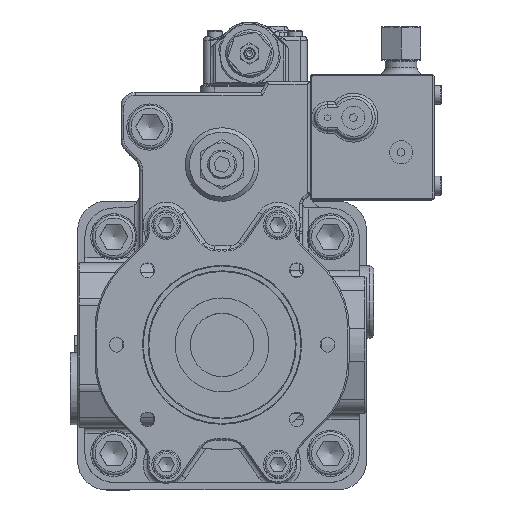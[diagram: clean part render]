
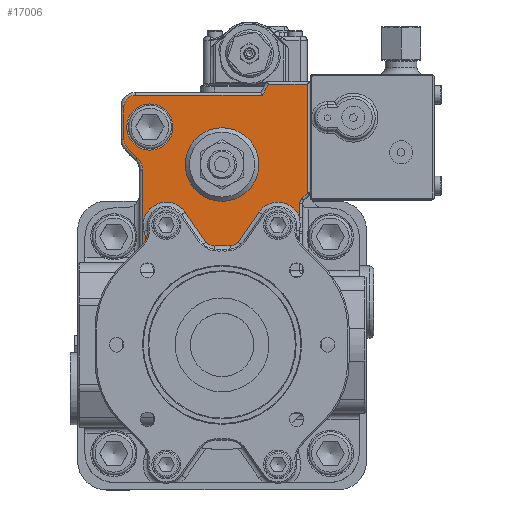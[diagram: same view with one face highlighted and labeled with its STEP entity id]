
A CAD part, top view. The second image highlights one B-rep face of the part: STEP entity #17006.
In plain terms, the highlighted planar face has unit normal (0, 0, 1).
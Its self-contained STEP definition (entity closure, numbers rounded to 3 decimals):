
#13595=CARTESIAN_POINT('',(-49.359,61.,75.));
#13596=VERTEX_POINT('',#13595);
#13605=CARTESIAN_POINT('',(-54.124,78.786,75.));
#13606=VERTEX_POINT('',#13605);
#13614=CARTESIAN_POINT('',(-54.124,78.786,75.));
#13615=DIRECTION('',(0.259,-0.966,0.0));
#13616=VECTOR('',#13615,18.413);
#13617=LINE('',#13614,#13616);
#13618=EDGE_CURVE('',#13606,#13596,#13617,.T.);
#13630=CARTESIAN_POINT('',(-25.563,92.104,75.));
#13631=VERTEX_POINT('',#13630);
#13639=CARTESIAN_POINT('',(-38.67,82.927,75.));
#13640=DIRECTION('',(0.,0.,1.0));
#13641=DIRECTION('',(-0.423,0.906,0.));
#13642=AXIS2_PLACEMENT_3D('',#13639,#13640,#13641);
#13643=CIRCLE('',#13642,16.);
#13644=EDGE_CURVE('',#13631,#13606,#13643,.T.);
#13656=CARTESIAN_POINT('',(-11.003,71.311,75.));
#13657=VERTEX_POINT('',#13656);
#13665=CARTESIAN_POINT('',(-11.003,71.311,75.0));
#13666=DIRECTION('',(-0.574,0.819,0.));
#13667=VECTOR('',#13666,25.384);
#13668=LINE('',#13665,#13667);
#13669=EDGE_CURVE('',#13657,#13631,#13668,.T.);
#13681=CARTESIAN_POINT('',(-5.601,68.772,75.0));
#13682=VERTEX_POINT('',#13681);
#13690=CARTESIAN_POINT('',(-6.089,74.752,75.0));
#13691=DIRECTION('',(0.,0.,-1.0));
#13692=DIRECTION('',(-0.425,-0.905,0.));
#13693=AXIS2_PLACEMENT_3D('',#13690,#13691,#13692);
#13694=CIRCLE('',#13693,6.);
#13695=EDGE_CURVE('',#13682,#13657,#13694,.T.);
#13707=CARTESIAN_POINT('',(5.601,68.772,75.0));
#13708=VERTEX_POINT('',#13707);
#13716=CARTESIAN_POINT('',(0.,0.,75.0));
#13717=DIRECTION('',(0.0,0.0,1.0));
#13718=DIRECTION('',(0.0,1.0,0.0));
#13719=AXIS2_PLACEMENT_3D('',#13716,#13717,#13718);
#13720=CIRCLE('',#13719,69.);
#13721=EDGE_CURVE('',#13708,#13682,#13720,.T.);
#13733=CARTESIAN_POINT('',(11.003,71.311,75.));
#13734=VERTEX_POINT('',#13733);
#13742=CARTESIAN_POINT('',(6.089,74.752,75.0));
#13743=DIRECTION('',(0.,0.,-1.0));
#13744=DIRECTION('',(0.425,-0.905,0.));
#13745=AXIS2_PLACEMENT_3D('',#13742,#13743,#13744);
#13746=CIRCLE('',#13745,6.0);
#13747=EDGE_CURVE('',#13734,#13708,#13746,.T.);
#13759=CARTESIAN_POINT('',(25.563,92.104,75.));
#13760=VERTEX_POINT('',#13759);
#13768=CARTESIAN_POINT('',(25.563,92.104,75.));
#13769=DIRECTION('',(-0.574,-0.819,0.));
#13770=VECTOR('',#13769,25.384);
#13771=LINE('',#13768,#13770);
#13772=EDGE_CURVE('',#13760,#13734,#13771,.T.);
#13816=CARTESIAN_POINT('',(53.743,88.294,75.));
#13817=VERTEX_POINT('',#13816);
#13828=CARTESIAN_POINT('',(38.67,82.927,75.));
#13829=DIRECTION('',(0.,0.,1.0));
#13830=DIRECTION('',(0.423,0.906,0.));
#13831=AXIS2_PLACEMENT_3D('',#13828,#13829,#13830);
#13832=CIRCLE('',#13831,16.);
#13833=EDGE_CURVE('',#13817,#13760,#13832,.T.);
#14149=CARTESIAN_POINT('',(-55.,61.,75.));
#14150=VERTEX_POINT('',#14149);
#14165=CARTESIAN_POINT('',(-49.359,61.,75.));
#14166=DIRECTION('',(-1.0,0.0,0.0));
#14167=VECTOR('',#14166,5.641);
#14168=LINE('',#14165,#14167);
#14169=EDGE_CURVE('',#13596,#14150,#14168,.T.);
#15957=CARTESIAN_POINT('',(55.207,101.536,75.));
#15958=VERTEX_POINT('',#15957);
#15966=CARTESIAN_POINT('',(53.743,98.,75.));
#15967=VERTEX_POINT('',#15966);
#15968=CARTESIAN_POINT('',(58.743,98.,75.));
#15969=DIRECTION('',(0.,0.,1.0));
#15970=DIRECTION('',(-0.924,0.383,0.));
#15971=AXIS2_PLACEMENT_3D('',#15968,#15969,#15970);
#15972=CIRCLE('',#15971,5.);
#15973=EDGE_CURVE('',#15958,#15967,#15972,.T.);
#16048=CARTESIAN_POINT('',(53.743,98.,75.));
#16049=DIRECTION('',(0.0,-1.0,0.0));
#16050=VECTOR('',#16049,9.706);
#16051=LINE('',#16048,#16050);
#16052=EDGE_CURVE('',#15967,#13817,#16051,.T.);
#16148=CARTESIAN_POINT('',(-60.,173.0,75.));
#16149=VERTEX_POINT('',#16148);
#16157=CARTESIAN_POINT('',(27.825,173.,75.));
#16158=VERTEX_POINT('',#16157);
#16159=CARTESIAN_POINT('',(-60.,173.,75.));
#16160=DIRECTION('',(1.0,0.0,0.0));
#16161=VECTOR('',#16160,87.825);
#16162=LINE('',#16159,#16161);
#16163=EDGE_CURVE('',#16149,#16158,#16162,.T.);
#16182=CARTESIAN_POINT('',(-68.,165.,75.));
#16183=VERTEX_POINT('',#16182);
#16191=CARTESIAN_POINT('',(-60.,165.0,75.));
#16192=DIRECTION('',(0.,0.,-1.0));
#16193=DIRECTION('',(-0.707,0.707,0.));
#16194=AXIS2_PLACEMENT_3D('',#16191,#16192,#16193);
#16195=CIRCLE('',#16194,8.0);
#16196=EDGE_CURVE('',#16183,#16149,#16195,.T.);
#16208=CARTESIAN_POINT('',(-68.,142.142,75.));
#16209=VERTEX_POINT('',#16208);
#16217=CARTESIAN_POINT('',(-68.,142.142,75.));
#16218=DIRECTION('',(0.0,1.0,0.0));
#16219=VECTOR('',#16218,22.858);
#16220=LINE('',#16217,#16219);
#16221=EDGE_CURVE('',#16209,#16183,#16220,.T.);
#16233=CARTESIAN_POINT('',(-65.657,136.485,75.));
#16234=VERTEX_POINT('',#16233);
#16242=CARTESIAN_POINT('',(-60.,142.142,75.));
#16243=DIRECTION('',(0.,0.,-1.0));
#16244=DIRECTION('',(-0.924,-0.383,0.));
#16245=AXIS2_PLACEMENT_3D('',#16242,#16243,#16244);
#16246=CIRCLE('',#16245,8.0);
#16247=EDGE_CURVE('',#16234,#16209,#16246,.T.);
#16259=CARTESIAN_POINT('',(-58.515,129.343,75.));
#16260=VERTEX_POINT('',#16259);
#16268=CARTESIAN_POINT('',(-58.515,129.343,75.));
#16269=DIRECTION('',(-0.707,0.707,0.));
#16270=VECTOR('',#16269,10.101);
#16271=LINE('',#16268,#16270);
#16272=EDGE_CURVE('',#16260,#16234,#16271,.T.);
#16284=CARTESIAN_POINT('',(-55.,120.858,75.));
#16285=VERTEX_POINT('',#16284);
#16293=CARTESIAN_POINT('',(-67.,120.858,75.));
#16294=DIRECTION('',(0.,0.,1.0));
#16295=DIRECTION('',(0.924,0.383,0.));
#16296=AXIS2_PLACEMENT_3D('',#16293,#16294,#16295);
#16297=CIRCLE('',#16296,12.);
#16298=EDGE_CURVE('',#16285,#16260,#16297,.T.);
#16354=CARTESIAN_POINT('',(-55.,61.,75.));
#16355=DIRECTION('',(0.0,1.0,0.0));
#16356=VECTOR('',#16355,59.858);
#16357=LINE('',#16354,#16356);
#16358=EDGE_CURVE('',#14150,#16285,#16357,.T.);
#16368=CARTESIAN_POINT('',(59.,105.328,75.));
#16369=VERTEX_POINT('',#16368);
#16379=CARTESIAN_POINT('',(59.,105.328,75.));
#16380=DIRECTION('',(-0.707,-0.707,0.0));
#16381=VECTOR('',#16380,5.364);
#16382=LINE('',#16379,#16381);
#16383=EDGE_CURVE('',#16369,#15958,#16382,.T.);
#16473=CARTESIAN_POINT('',(59.,180.5,75.));
#16474=VERTEX_POINT('',#16473);
#16482=CARTESIAN_POINT('',(59.,180.5,75.));
#16483=DIRECTION('',(0.0,-1.0,0.0));
#16484=VECTOR('',#16483,75.172);
#16485=LINE('',#16482,#16484);
#16486=EDGE_CURVE('',#16474,#16369,#16485,.T.);
#16496=CARTESIAN_POINT('',(32.155,180.5,75.));
#16497=VERTEX_POINT('',#16496);
#16498=CARTESIAN_POINT('',(32.155,180.5,75.));
#16499=DIRECTION('',(1.0,0.0,0.0));
#16500=VECTOR('',#16499,26.845);
#16501=LINE('',#16498,#16500);
#16502=EDGE_CURVE('',#16497,#16474,#16501,.T.);
#16522=CARTESIAN_POINT('',(27.825,173.,75.));
#16523=DIRECTION('',(0.5,0.866,0.));
#16524=VECTOR('',#16523,8.66);
#16525=LINE('',#16522,#16524);
#16526=EDGE_CURVE('',#16158,#16497,#16525,.T.);
#16940=CARTESIAN_POINT('',(-34.,151.0,75.));
#16941=VERTEX_POINT('',#16940);
#16942=CARTESIAN_POINT('',(-50.,151.,75.));
#16943=DIRECTION('',(0.0,0.0,-1.0));
#16944=DIRECTION('',(1.0,0.0,0.0));
#16945=AXIS2_PLACEMENT_3D('',#16942,#16943,#16944);
#16946=CIRCLE('',#16945,16.0);
#16947=EDGE_CURVE('',#16941,#16941,#16946,.T.);
#16963=CARTESIAN_POINT('',(-2.165,135.954,75.0));
#16964=DIRECTION('',(0.0,0.0,1.0));
#16965=DIRECTION('',(1.0,0.0,0.0));
#16966=AXIS2_PLACEMENT_3D('',#16963,#16964,#16965);
#16967=PLANE('',#16966);
#16968=ORIENTED_EDGE('',*,*,#16486,.F.);
#16969=ORIENTED_EDGE('',*,*,#16502,.F.);
#16970=ORIENTED_EDGE('',*,*,#16526,.F.);
#16971=ORIENTED_EDGE('',*,*,#16163,.F.);
#16972=ORIENTED_EDGE('',*,*,#16196,.F.);
#16973=ORIENTED_EDGE('',*,*,#16221,.F.);
#16974=ORIENTED_EDGE('',*,*,#16247,.F.);
#16975=ORIENTED_EDGE('',*,*,#16272,.F.);
#16976=ORIENTED_EDGE('',*,*,#16298,.F.);
#16977=ORIENTED_EDGE('',*,*,#16358,.F.);
#16978=ORIENTED_EDGE('',*,*,#14169,.F.);
#16979=ORIENTED_EDGE('',*,*,#13618,.F.);
#16980=ORIENTED_EDGE('',*,*,#13644,.F.);
#16981=ORIENTED_EDGE('',*,*,#13669,.F.);
#16982=ORIENTED_EDGE('',*,*,#13695,.F.);
#16983=ORIENTED_EDGE('',*,*,#13721,.F.);
#16984=ORIENTED_EDGE('',*,*,#13747,.F.);
#16985=ORIENTED_EDGE('',*,*,#13772,.F.);
#16986=ORIENTED_EDGE('',*,*,#13833,.F.);
#16987=ORIENTED_EDGE('',*,*,#16052,.F.);
#16988=ORIENTED_EDGE('',*,*,#15973,.F.);
#16989=ORIENTED_EDGE('',*,*,#16383,.F.);
#16990=EDGE_LOOP('',(#16968,#16969,#16970,#16971,#16972,#16973,#16974,#16975,#16976,#16977,#16978,#16979,#16980,#16981,#16982,#16983,#16984,#16985,#16986,#16987,#16988,#16989));
#16991=FACE_OUTER_BOUND('',#16990,.T.);
#16992=ORIENTED_EDGE('',*,*,#16947,.T.);
#16993=EDGE_LOOP('',(#16992));
#16994=FACE_BOUND('',#16993,.T.);
#16995=CARTESIAN_POINT('',(25.5,125.,75.));
#16996=VERTEX_POINT('',#16995);
#16997=CARTESIAN_POINT('',(0.,125.,75.0));
#16998=DIRECTION('',(0.0,0.0,1.0));
#16999=DIRECTION('',(-1.0,0.0,0.0));
#17000=AXIS2_PLACEMENT_3D('',#16997,#16998,#16999);
#17001=CIRCLE('',#17000,25.5);
#17002=EDGE_CURVE('',#16996,#16996,#17001,.T.);
#17003=ORIENTED_EDGE('',*,*,#17002,.F.);
#17004=EDGE_LOOP('',(#17003));
#17005=FACE_BOUND('',#17004,.T.);
#17006=ADVANCED_FACE('',(#16991,#16994,#17005),#16967,.T.);
